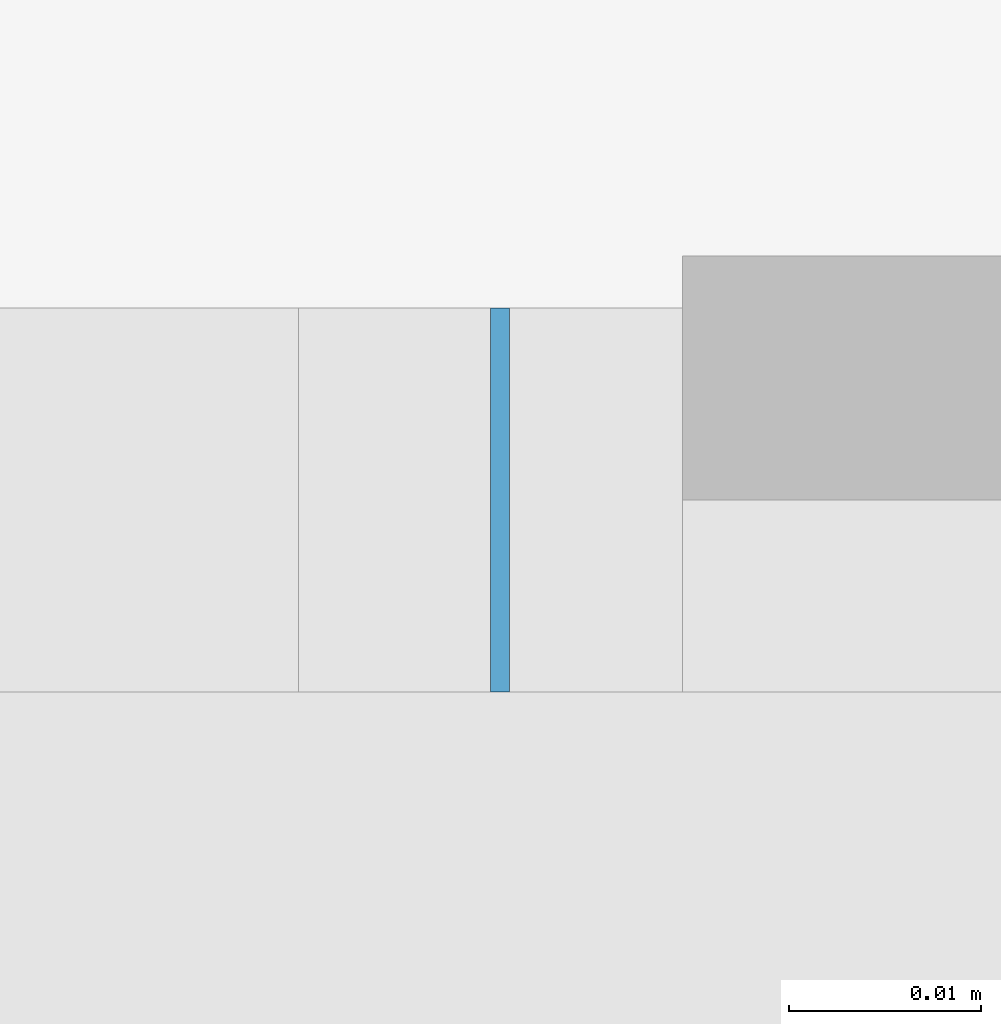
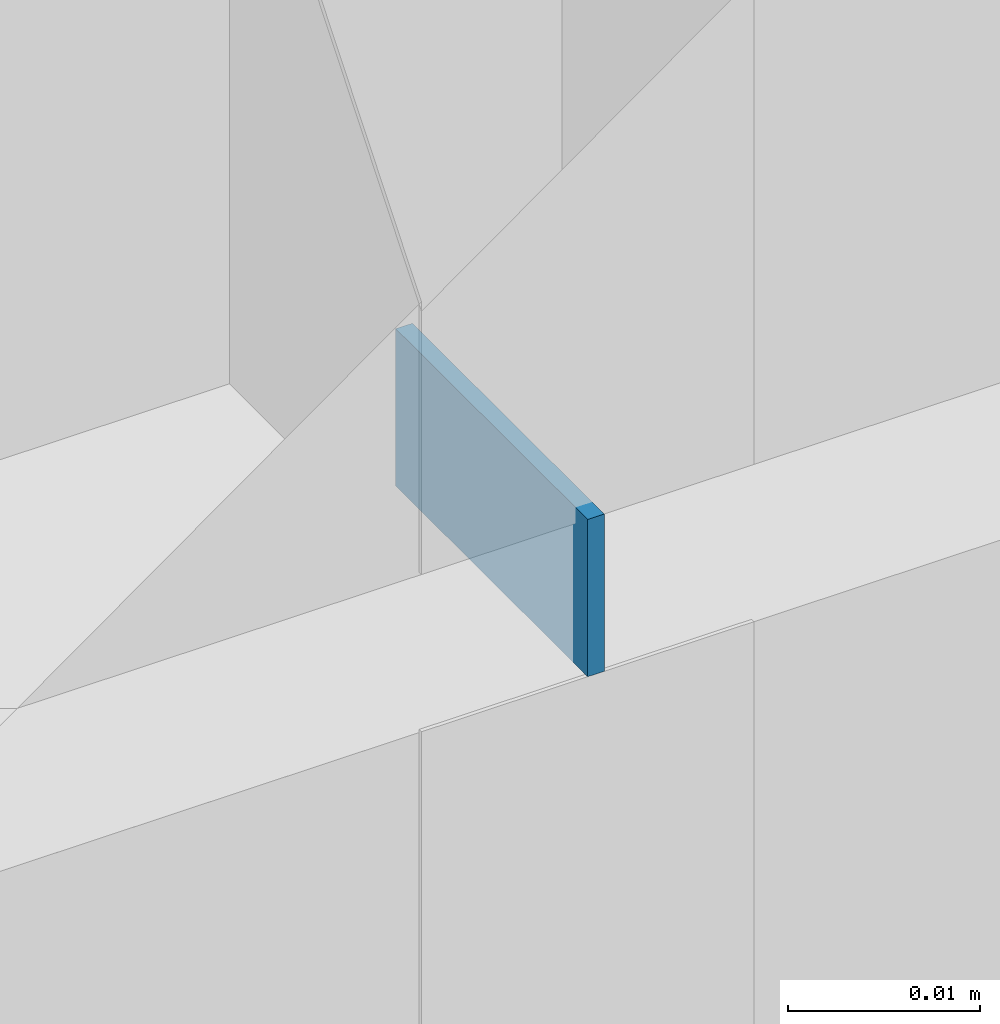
# One storey, part 47 of 73: 1 plate, 1 element without a shape of its own.
"""IFC2X3 building model written with IfcOpenShell, lengths in millimetres."""

from ifc_helpers import new_model, entity, si_unit, converted_unit, derived_unit, direction, frame, origin, origin_2d_with_axis, place, context, subcontext, project, spatial, rectangle, extrude, source, transform, mapped, material, layer, layer_set, layer_usage, type_object, type_shapes, element, aggregate, save


model = new_model("IFC2X3")

# Units and contexts
model_context = context("Model", 3, precision=0.01, world=origin(), true_north=direction((6.12303176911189e-17, 1.0)))
body_context = subcontext(model_context, "Body", "Model", "MODEL_VIEW")
ifc_project = project(units=[si_unit("LENGTHUNIT", "METRE", prefix="MILLI"), si_unit("AREAUNIT", "SQUARE_METRE"), si_unit("VOLUMEUNIT", "CUBIC_METRE"), converted_unit("PLANEANGLEUNIT", "DEGREE", entity("IfcRatioMeasure", 0.0174532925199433), si_unit("PLANEANGLEUNIT", "RADIAN"), dimensions=[0, 0, 0, 0, 0, 0, 0]), si_unit("MASSUNIT", "GRAM", prefix="KILO"), derived_unit("MASSDENSITYUNIT", [(si_unit("MASSUNIT", "GRAM", prefix="KILO"), 1), (si_unit("LENGTHUNIT", "METRE"), -3)]), si_unit("TIMEUNIT", "SECOND"), si_unit("FREQUENCYUNIT", "HERTZ"), si_unit("THERMODYNAMICTEMPERATUREUNIT", "DEGREE_CELSIUS"), derived_unit("THERMALTRANSMITTANCEUNIT", [(si_unit("MASSUNIT", "GRAM", prefix="KILO"), 1), (si_unit("THERMODYNAMICTEMPERATUREUNIT", "KELVIN"), -1), (si_unit("TIMEUNIT", "SECOND"), -3)]), derived_unit("VOLUMETRICFLOWRATEUNIT", [(si_unit("LENGTHUNIT", "METRE"), 3), (si_unit("TIMEUNIT", "SECOND"), -1)]), si_unit("ELECTRICCURRENTUNIT", "AMPERE"), si_unit("ELECTRICVOLTAGEUNIT", "VOLT"), si_unit("POWERUNIT", "WATT"), si_unit("FORCEUNIT", "NEWTON", prefix="KILO"), si_unit("ILLUMINANCEUNIT", "LUX"), si_unit("LUMINOUSFLUXUNIT", "LUMEN"), si_unit("LUMINOUSINTENSITYUNIT", "CANDELA"), derived_unit("USERDEFINED", [(si_unit("MASSUNIT", "GRAM", prefix="KILO"), -1), (si_unit("LENGTHUNIT", "METRE"), -2), (si_unit("TIMEUNIT", "SECOND"), 3), (si_unit("LUMINOUSFLUXUNIT", "LUMEN"), 1)]), derived_unit("LINEARVELOCITYUNIT", [(si_unit("LENGTHUNIT", "METRE"), 1), (si_unit("TIMEUNIT", "SECOND"), -1)]), si_unit("PRESSUREUNIT", "PASCAL"), derived_unit("USERDEFINED", [(si_unit("LENGTHUNIT", "METRE"), -2), (si_unit("MASSUNIT", "GRAM", prefix="KILO"), 1), (si_unit("TIMEUNIT", "SECOND"), -2)])], contexts=[model_context])

# Site, building, storey
site_placement = place(None, frame((-151.875543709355, 2715.0, 0.0)))
site = spatial("IfcSite", under=ifc_project, at=site_placement, Name="Surface", CompositionType="ELEMENT")
building_placement = place(site_placement, origin())
building = spatial("IfcBuilding", under=site, at=building_placement, CompositionType="ELEMENT")
storey_placement = place(building_placement, frame((0.0, 0.0, 6730.43000000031)))
storey = spatial("IfcBuildingStorey", under=building, at=storey_placement, Name="3 korrus", CompositionType="ELEMENT", Elevation=6730.43000000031)

# Curtain wall, plate
curtain_wall_type = type_object("IfcCurtainWallType", Name="Curtain Wall:Klaassein KLS-19", PredefinedType="NOTDEFINED")
curtain_wall_placement = place(storey_placement, frame((0.0, 0.0, -6730.43000000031)))
curtain_wall = element("IfcCurtainWall", 1, at=curtain_wall_placement, inside=storey, type_object=curtain_wall_type, Name="Curtain Wall:Klaassein KLS-19", ObjectType="Curtain Wall:Klaassein KLS-19")
ifc_material = material(Name="<Unnamed>")
ifc_layer = layer(ifc_material, 20.0)
ifc_layer_set = layer_set([ifc_layer], Name="Curtain Wall:Klaassein KLS-01")
ifc_layer_usage = layer_usage(ifc_layer_set, "AXIS3", "POSITIVE", 0.0)
plate_type = type_object("IfcPlateType", Name="Glazed", PredefinedType="CURTAIN_PANEL", material=ifc_layer_set)
shared_shape = source(origin(), body_context, "Body", "SweptSolid", [
    extrude(rectangle(XDim=20.0, YDim=0.999999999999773, at=origin_2d_with_axis()), frame((0.0, 0.0, 0.0), z_axis=(0.0, 0.0, 1.0), x_axis=(0.0, 1.0, 0.0)), (0.0, 0.0, 1.0), 9.99999999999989),
])
type_shapes(plate_type, [shared_shape])
plate_placement = place(curtain_wall_placement, frame((20262.5647261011, 4355.04493399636, 8820.43000000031), z_axis=(0.0, 0.0, 1.0), x_axis=(-1.0, 0.0, 0.0)))
plate = element("IfcPlate", 2, at=plate_placement, type_object=plate_type, material=ifc_layer_usage, Name="System Panel:Glazed", ObjectType="Glazed", context=body_context, shape_type="MappedRepresentation", body=[
    mapped(shared_shape, transform((0.0, 0.0, 0.0), scale=1.0)),
])
aggregate(curtain_wall, [plate])

save(model, "model.ifc")
